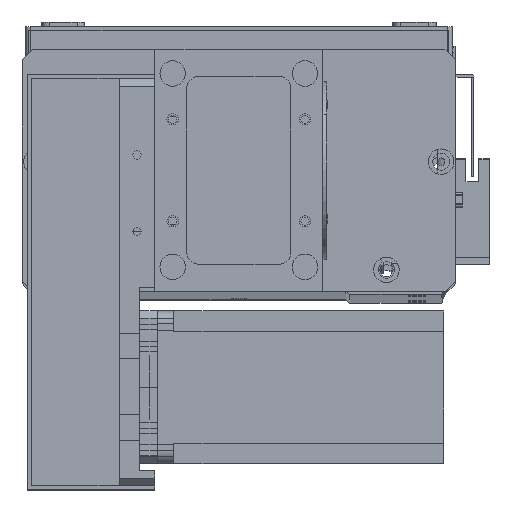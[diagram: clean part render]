
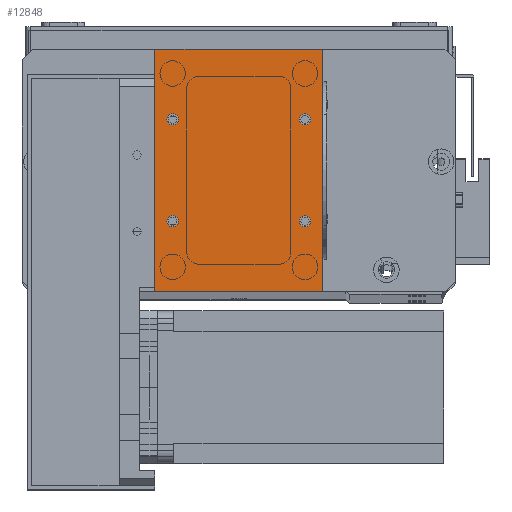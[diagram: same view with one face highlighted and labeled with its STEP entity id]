
A CAD part, top view. The second image highlights one B-rep face of the part: STEP entity #12848.
In plain terms, the highlighted planar face has unit normal (0, 0, 1).
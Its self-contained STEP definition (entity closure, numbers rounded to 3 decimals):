
#230 = ORIENTED_EDGE ( 'NONE', *, *, #7881, .F. ) ;
#497 = CARTESIAN_POINT ( 'NONE',  ( 59., 27.5, 2. ) ) ;
#512 = DIRECTION ( 'NONE',  ( 0., 0., 1. ) ) ;
#526 = FACE_BOUND ( 'NONE', #19581, .T. ) ;
#554 = VERTEX_POINT ( 'NONE', #8022 ) ;
#730 = ORIENTED_EDGE ( 'NONE', *, *, #29296, .T. ) ;
#743 = DIRECTION ( 'NONE',  ( 1., 0., 0. ) ) ;
#1638 = AXIS2_PLACEMENT_3D ( 'NONE', #15881, #512, #18498 ) ;
#1896 = CARTESIAN_POINT ( 'NONE',  ( 0., 0., 2. ) ) ;
#2308 = AXIS2_PLACEMENT_3D ( 'NONE', #18960, #3561, #21499 ) ;
#2401 = VERTEX_POINT ( 'NONE', #17436 ) ;
#2607 = AXIS2_PLACEMENT_3D ( 'NONE', #1896, #12244, #30187 ) ;
#2705 = DIRECTION ( 'NONE',  ( 0., -1., 0. ) ) ;
#2941 = CARTESIAN_POINT ( 'NONE',  ( 66., 0., 2. ) ) ;
#3048 = DIRECTION ( 'NONE',  ( 1., 0., 0. ) ) ;
#3362 = CARTESIAN_POINT ( 'NONE',  ( 9.25, 27.5, 2. ) ) ;
#3561 = DIRECTION ( 'NONE',  ( 0., 0., 1. ) ) ;
#3671 = AXIS2_PLACEMENT_3D ( 'NONE', #13111, #31066, #15699 ) ;
#3918 = EDGE_CURVE ( 'NONE', #16501, #17546, #27568, .T. ) ;
#4365 = LINE ( 'NONE', #18119, #16411 ) ;
#4617 = CARTESIAN_POINT ( 'NONE',  ( 0., 0., 2. ) ) ;
#4875 = EDGE_CURVE ( 'NONE', #30622, #554, #27509, .T. ) ;
#5363 = CIRCLE ( 'NONE', #29648, 2.25 ) ;
#5654 = LINE ( 'NONE', #18694, #19318 ) ;
#5873 = EDGE_CURVE ( 'NONE', #30902, #26117, #5363, .T. ) ;
#6379 = VERTEX_POINT ( 'NONE', #11012 ) ;
#6550 = FACE_BOUND ( 'NONE', #19564, .T. ) ;
#6883 = VERTEX_POINT ( 'NONE', #3362 ) ;
#7786 = VERTEX_POINT ( 'NONE', #22789 ) ;
#7830 = EDGE_CURVE ( 'NONE', #7786, #2401, #29312, .T. ) ;
#7881 = EDGE_CURVE ( 'NONE', #6379, #6883, #22492, .T. ) ;
#7958 = ORIENTED_EDGE ( 'NONE', *, *, #33003, .F. ) ;
#8022 = CARTESIAN_POINT ( 'NONE',  ( 56.75, 67.5, 2. ) ) ;
#8991 = AXIS2_PLACEMENT_3D ( 'NONE', #497, #18480, #3048 ) ;
#10261 = VERTEX_POINT ( 'NONE', #10860 ) ;
#10860 = CARTESIAN_POINT ( 'NONE',  ( 0., 95., 2. ) ) ;
#11012 = CARTESIAN_POINT ( 'NONE',  ( 4.75, 27.5, 2. ) ) ;
#11716 = CARTESIAN_POINT ( 'NONE',  ( 59., 67.5, 2. ) ) ;
#11888 = CIRCLE ( 'NONE', #8991, 2.25 ) ;
#12244 = DIRECTION ( 'NONE',  ( 0., 0., -1. ) ) ;
#12444 = ORIENTED_EDGE ( 'NONE', *, *, #7830, .F. ) ;
#12463 = CARTESIAN_POINT ( 'NONE',  ( 61.25, 67.5, 2. ) ) ;
#12519 = AXIS2_PLACEMENT_3D ( 'NONE', #28167, #12810, #30736 ) ;
#12582 = FACE_OUTER_BOUND ( 'NONE', #31336, .T. ) ;
#12810 = DIRECTION ( 'NONE',  ( 0., 0., 1. ) ) ;
#12848 = ADVANCED_FACE ( 'NONE', ( #526, #20217, #6550, #19411, #12582 ), #22456, .F. ) ;
#13018 = DIRECTION ( 'NONE',  ( 0., 0., 1. ) ) ;
#13111 = CARTESIAN_POINT ( 'NONE',  ( 7., 67.5, 2. ) ) ;
#13688 = CARTESIAN_POINT ( 'NONE',  ( 61.25, 27.5, 2. ) ) ;
#14134 = AXIS2_PLACEMENT_3D ( 'NONE', #11716, #29649, #14283 ) ;
#14283 = DIRECTION ( 'NONE',  ( 1., 0., 0. ) ) ;
#14623 = CARTESIAN_POINT ( 'NONE',  ( 56.75, 27.5, 2. ) ) ;
#14826 = EDGE_LOOP ( 'NONE', ( #7958, #230 ) ) ;
#15699 = DIRECTION ( 'NONE',  ( 1., 0., 0. ) ) ;
#15719 = EDGE_CURVE ( 'NONE', #10261, #16501, #4365, .T. ) ;
#15881 = CARTESIAN_POINT ( 'NONE',  ( 7., 27.5, 2. ) ) ;
#16115 = DIRECTION ( 'NONE',  ( 0., 0., 1. ) ) ;
#16162 = ORIENTED_EDGE ( 'NONE', *, *, #4875, .F. ) ;
#16261 = CARTESIAN_POINT ( 'NONE',  ( 66., 95., 2. ) ) ;
#16391 = VERTEX_POINT ( 'NONE', #16261 ) ;
#16411 = VECTOR ( 'NONE', #2705, 1000. ) ;
#16444 = ORIENTED_EDGE ( 'NONE', *, *, #3918, .T. ) ;
#16501 = VERTEX_POINT ( 'NONE', #21956 ) ;
#17436 = CARTESIAN_POINT ( 'NONE',  ( 9.25, 67.5, 2. ) ) ;
#17546 = VERTEX_POINT ( 'NONE', #2941 ) ;
#17952 = EDGE_CURVE ( 'NONE', #2401, #7786, #18144, .T. ) ;
#18119 = CARTESIAN_POINT ( 'NONE',  ( 0., 0., 2. ) ) ;
#18144 = CIRCLE ( 'NONE', #3671, 2.25 ) ;
#18480 = DIRECTION ( 'NONE',  ( 0., 0., 1. ) ) ;
#18498 = DIRECTION ( 'NONE',  ( 1., 0., 0. ) ) ;
#18692 = EDGE_CURVE ( 'NONE', #17546, #16391, #5654, .T. ) ;
#18694 = CARTESIAN_POINT ( 'NONE',  ( 66., 0., 2. ) ) ;
#18960 = CARTESIAN_POINT ( 'NONE',  ( 59., 67.5, 2. ) ) ;
#19318 = VECTOR ( 'NONE', #28887, 1000. ) ;
#19411 = FACE_BOUND ( 'NONE', #14826, .T. ) ;
#19564 = EDGE_LOOP ( 'NONE', ( #21585, #29680 ) ) ;
#19581 = EDGE_LOOP ( 'NONE', ( #28659, #12444 ) ) ;
#20217 = FACE_BOUND ( 'NONE', #25389, .T. ) ;
#20531 = ORIENTED_EDGE ( 'NONE', *, *, #27741, .F. ) ;
#20724 = ORIENTED_EDGE ( 'NONE', *, *, #18692, .T. ) ;
#20737 = VECTOR ( 'NONE', #27755, 1000. ) ;
#21499 = DIRECTION ( 'NONE',  ( 1., 0., 0. ) ) ;
#21585 = ORIENTED_EDGE ( 'NONE', *, *, #5873, .F. ) ;
#21956 = CARTESIAN_POINT ( 'NONE',  ( 0., 0., 2. ) ) ;
#22228 = ORIENTED_EDGE ( 'NONE', *, *, #15719, .T. ) ;
#22456 = PLANE ( 'NONE',  #2607 ) ;
#22492 = CIRCLE ( 'NONE', #24564, 2.25 ) ;
#22669 = CIRCLE ( 'NONE', #14134, 2.25 ) ;
#22789 = CARTESIAN_POINT ( 'NONE',  ( 4.75, 67.5, 2. ) ) ;
#23792 = VECTOR ( 'NONE', #32188, 1000. ) ;
#23802 = CIRCLE ( 'NONE', #1638, 2.25 ) ;
#24564 = AXIS2_PLACEMENT_3D ( 'NONE', #28381, #13018, #30980 ) ;
#24585 = LINE ( 'NONE', #29565, #23792 ) ;
#25389 = EDGE_LOOP ( 'NONE', ( #16162, #20531 ) ) ;
#26117 = VERTEX_POINT ( 'NONE', #14623 ) ;
#27509 = CIRCLE ( 'NONE', #2308, 2.25 ) ;
#27568 = LINE ( 'NONE', #4617, #20737 ) ;
#27741 = EDGE_CURVE ( 'NONE', #554, #30622, #22669, .T. ) ;
#27755 = DIRECTION ( 'NONE',  ( 1., 0., 0. ) ) ;
#28167 = CARTESIAN_POINT ( 'NONE',  ( 7., 67.5, 2. ) ) ;
#28381 = CARTESIAN_POINT ( 'NONE',  ( 7., 27.5, 2. ) ) ;
#28659 = ORIENTED_EDGE ( 'NONE', *, *, #17952, .F. ) ;
#28887 = DIRECTION ( 'NONE',  ( 0., 1., 0. ) ) ;
#29296 = EDGE_CURVE ( 'NONE', #16391, #10261, #24585, .T. ) ;
#29312 = CIRCLE ( 'NONE', #12519, 2.25 ) ;
#29565 = CARTESIAN_POINT ( 'NONE',  ( 0., 95., 2. ) ) ;
#29648 = AXIS2_PLACEMENT_3D ( 'NONE', #31502, #16115, #743 ) ;
#29649 = DIRECTION ( 'NONE',  ( 0., 0., 1. ) ) ;
#29680 = ORIENTED_EDGE ( 'NONE', *, *, #29700, .F. ) ;
#29700 = EDGE_CURVE ( 'NONE', #26117, #30902, #11888, .T. ) ;
#30187 = DIRECTION ( 'NONE',  ( -1., 0., 0. ) ) ;
#30622 = VERTEX_POINT ( 'NONE', #12463 ) ;
#30736 = DIRECTION ( 'NONE',  ( 1., 0., 0. ) ) ;
#30902 = VERTEX_POINT ( 'NONE', #13688 ) ;
#30980 = DIRECTION ( 'NONE',  ( 1., 0., 0. ) ) ;
#31066 = DIRECTION ( 'NONE',  ( 0., 0., 1. ) ) ;
#31336 = EDGE_LOOP ( 'NONE', ( #22228, #16444, #20724, #730 ) ) ;
#31502 = CARTESIAN_POINT ( 'NONE',  ( 59., 27.5, 2. ) ) ;
#32188 = DIRECTION ( 'NONE',  ( -1., 0., 0. ) ) ;
#33003 = EDGE_CURVE ( 'NONE', #6883, #6379, #23802, .T. ) ;
